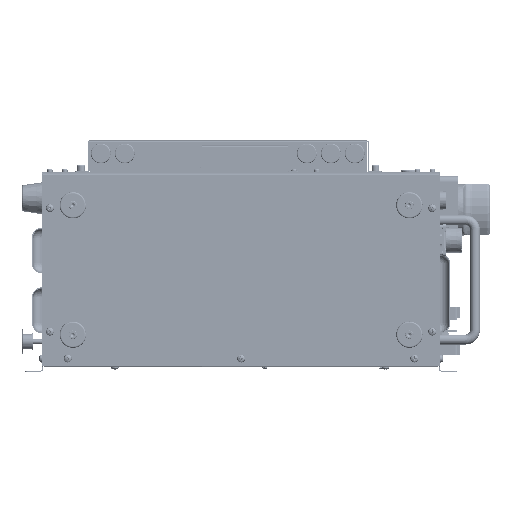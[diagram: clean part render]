
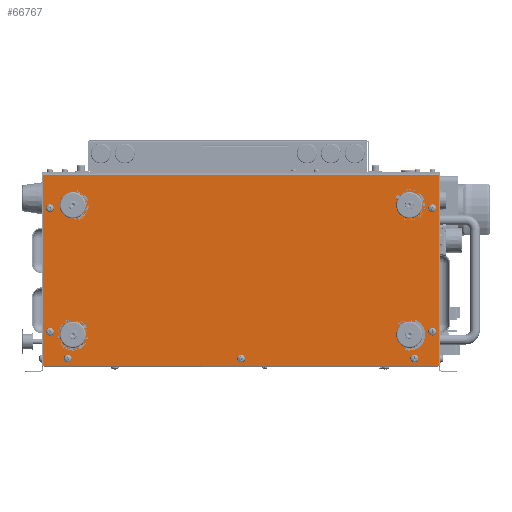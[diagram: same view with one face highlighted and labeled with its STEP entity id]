
A CAD part, front view. The second image highlights one B-rep face of the part: STEP entity #66767.
In plain terms, the highlighted planar face has unit normal (0, -1, 0).
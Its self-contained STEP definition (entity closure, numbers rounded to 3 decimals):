
#2937=FACE_BOUND('',#9288,.T.);
#2938=FACE_BOUND('',#9289,.T.);
#2939=FACE_BOUND('',#9290,.T.);
#2940=FACE_BOUND('',#9291,.T.);
#2941=FACE_BOUND('',#9292,.T.);
#2942=FACE_BOUND('',#9293,.T.);
#2943=FACE_BOUND('',#9294,.T.);
#2944=FACE_BOUND('',#9295,.T.);
#2945=FACE_BOUND('',#9296,.T.);
#2946=FACE_BOUND('',#9297,.T.);
#2947=FACE_BOUND('',#9298,.T.);
#3574=PLANE('',#70790);
#5489=FACE_OUTER_BOUND('',#9287,.T.);
#9287=EDGE_LOOP('',(#44889,#44890,#44891,#44892));
#9288=EDGE_LOOP('',(#44893));
#9289=EDGE_LOOP('',(#44894));
#9290=EDGE_LOOP('',(#44895));
#9291=EDGE_LOOP('',(#44896));
#9292=EDGE_LOOP('',(#44897));
#9293=EDGE_LOOP('',(#44898));
#9294=EDGE_LOOP('',(#44899));
#9295=EDGE_LOOP('',(#44900));
#9296=EDGE_LOOP('',(#44901));
#9297=EDGE_LOOP('',(#44902));
#9298=EDGE_LOOP('',(#44903));
#14166=LINE('',#97356,#19285);
#14168=LINE('',#97361,#19287);
#14169=LINE('',#97366,#19288);
#14178=LINE('',#97431,#19297);
#19285=VECTOR('',#78572,10.);
#19287=VECTOR('',#78578,10.);
#19288=VECTOR('',#78583,10.);
#19297=VECTOR('',#78666,10.);
#23713=CIRCLE('',#70791,2.067);
#23714=CIRCLE('',#70792,2.067);
#23715=CIRCLE('',#70793,2.067);
#23716=CIRCLE('',#70794,2.067);
#23717=CIRCLE('',#70795,2.5);
#23718=CIRCLE('',#70796,2.5);
#23719=CIRCLE('',#70797,2.5);
#23720=CIRCLE('',#70798,2.5);
#23721=CIRCLE('',#70799,2.5);
#23722=CIRCLE('',#70800,2.5);
#23723=CIRCLE('',#70801,2.5);
#27382=VERTEX_POINT('',#97353);
#27383=VERTEX_POINT('',#97355);
#27384=VERTEX_POINT('',#97359);
#27386=VERTEX_POINT('',#97365);
#27406=VERTEX_POINT('',#97432);
#27407=VERTEX_POINT('',#97434);
#27408=VERTEX_POINT('',#97436);
#27409=VERTEX_POINT('',#97438);
#27410=VERTEX_POINT('',#97440);
#27411=VERTEX_POINT('',#97442);
#27412=VERTEX_POINT('',#97444);
#27413=VERTEX_POINT('',#97446);
#27414=VERTEX_POINT('',#97448);
#27415=VERTEX_POINT('',#97450);
#27416=VERTEX_POINT('',#97452);
#34083=EDGE_CURVE('',#27383,#27382,#14166,.T.);
#34086=EDGE_CURVE('',#27384,#27382,#14168,.T.);
#34088=EDGE_CURVE('',#27383,#27386,#14169,.T.);
#34114=EDGE_CURVE('',#27384,#27386,#14178,.T.);
#34115=EDGE_CURVE('',#27406,#27406,#23713,.T.);
#34116=EDGE_CURVE('',#27407,#27407,#23714,.T.);
#34117=EDGE_CURVE('',#27408,#27408,#23715,.T.);
#34118=EDGE_CURVE('',#27409,#27409,#23716,.T.);
#34119=EDGE_CURVE('',#27410,#27410,#23717,.T.);
#34120=EDGE_CURVE('',#27411,#27411,#23718,.T.);
#34121=EDGE_CURVE('',#27412,#27412,#23719,.T.);
#34122=EDGE_CURVE('',#27413,#27413,#23720,.T.);
#34123=EDGE_CURVE('',#27414,#27414,#23721,.T.);
#34124=EDGE_CURVE('',#27415,#27415,#23722,.T.);
#34125=EDGE_CURVE('',#27416,#27416,#23723,.T.);
#44889=ORIENTED_EDGE('',*,*,#34088,.F.);
#44890=ORIENTED_EDGE('',*,*,#34083,.T.);
#44891=ORIENTED_EDGE('',*,*,#34086,.F.);
#44892=ORIENTED_EDGE('',*,*,#34114,.T.);
#44893=ORIENTED_EDGE('',*,*,#34115,.T.);
#44894=ORIENTED_EDGE('',*,*,#34116,.T.);
#44895=ORIENTED_EDGE('',*,*,#34117,.T.);
#44896=ORIENTED_EDGE('',*,*,#34118,.T.);
#44897=ORIENTED_EDGE('',*,*,#34119,.T.);
#44898=ORIENTED_EDGE('',*,*,#34120,.T.);
#44899=ORIENTED_EDGE('',*,*,#34121,.T.);
#44900=ORIENTED_EDGE('',*,*,#34122,.T.);
#44901=ORIENTED_EDGE('',*,*,#34123,.T.);
#44902=ORIENTED_EDGE('',*,*,#34124,.T.);
#44903=ORIENTED_EDGE('',*,*,#34125,.T.);
#66767=ADVANCED_FACE('',(#5489,#2937,#2938,#2939,#2940,#2941,#2942,#2943,
#2944,#2945,#2946,#2947),#3574,.T.);
#70790=AXIS2_PLACEMENT_3D('',#97430,#78664,#78665);
#70791=AXIS2_PLACEMENT_3D('',#97433,#78667,#78668);
#70792=AXIS2_PLACEMENT_3D('',#97435,#78669,#78670);
#70793=AXIS2_PLACEMENT_3D('',#97437,#78671,#78672);
#70794=AXIS2_PLACEMENT_3D('',#97439,#78673,#78674);
#70795=AXIS2_PLACEMENT_3D('',#97441,#78675,#78676);
#70796=AXIS2_PLACEMENT_3D('',#97443,#78677,#78678);
#70797=AXIS2_PLACEMENT_3D('',#97445,#78679,#78680);
#70798=AXIS2_PLACEMENT_3D('',#97447,#78681,#78682);
#70799=AXIS2_PLACEMENT_3D('',#97449,#78683,#78684);
#70800=AXIS2_PLACEMENT_3D('',#97451,#78685,#78686);
#70801=AXIS2_PLACEMENT_3D('',#97453,#78687,#78688);
#78572=DIRECTION('',(0.,0.,1.));
#78578=DIRECTION('',(1.,0.,0.));
#78583=DIRECTION('',(-1.,0.,0.));
#78664=DIRECTION('center_axis',(0.,-1.,0.));
#78665=DIRECTION('ref_axis',(1.,0.,0.));
#78666=DIRECTION('',(0.,0.,-1.));
#78667=DIRECTION('center_axis',(0.,1.,0.));
#78668=DIRECTION('ref_axis',(-1.,0.,0.));
#78669=DIRECTION('center_axis',(0.,1.,0.));
#78670=DIRECTION('ref_axis',(-1.,0.,0.));
#78671=DIRECTION('center_axis',(0.,1.,0.));
#78672=DIRECTION('ref_axis',(-1.,0.,0.));
#78673=DIRECTION('center_axis',(0.,1.,0.));
#78674=DIRECTION('ref_axis',(-1.,0.,0.));
#78675=DIRECTION('center_axis',(0.,1.,0.));
#78676=DIRECTION('ref_axis',(1.,0.,0.));
#78677=DIRECTION('center_axis',(0.,1.,0.));
#78678=DIRECTION('ref_axis',(1.,0.,0.));
#78679=DIRECTION('center_axis',(0.,1.,0.));
#78680=DIRECTION('ref_axis',(1.,0.,0.));
#78681=DIRECTION('center_axis',(0.,1.,0.));
#78682=DIRECTION('ref_axis',(1.,0.,0.));
#78683=DIRECTION('center_axis',(0.,1.,0.));
#78684=DIRECTION('ref_axis',(1.,0.,0.));
#78685=DIRECTION('center_axis',(0.,1.,0.));
#78686=DIRECTION('ref_axis',(1.,0.,0.));
#78687=DIRECTION('center_axis',(0.,1.,0.));
#78688=DIRECTION('ref_axis',(1.,0.,0.));
#97353=CARTESIAN_POINT('',(199.,-76.75,-2.5));
#97355=CARTESIAN_POINT('',(199.,-76.75,-194.));
#97356=CARTESIAN_POINT('',(199.,-76.75,-195.));
#97359=CARTESIAN_POINT('',(-199.,-76.75,-2.5));
#97361=CARTESIAN_POINT('',(-159.,-76.75,-2.5));
#97365=CARTESIAN_POINT('',(-199.,-76.75,-194.));
#97366=CARTESIAN_POINT('',(99.5,-76.75,-194.));
#97430=CARTESIAN_POINT('Origin',(0.,-76.75,-98.));
#97431=CARTESIAN_POINT('',(-199.,-76.75,-1.));
#97432=CARTESIAN_POINT('',(-166.933,-76.75,-163.));
#97433=CARTESIAN_POINT('Origin',(-169.,-76.75,-163.));
#97434=CARTESIAN_POINT('',(171.067,-76.75,-33.));
#97435=CARTESIAN_POINT('Origin',(169.,-76.75,-33.));
#97436=CARTESIAN_POINT('',(171.067,-76.75,-163.));
#97437=CARTESIAN_POINT('Origin',(169.,-76.75,-163.));
#97438=CARTESIAN_POINT('',(-166.933,-76.75,-33.));
#97439=CARTESIAN_POINT('Origin',(-169.,-76.75,-33.));
#97440=CARTESIAN_POINT('',(-194.5,-76.75,-36.));
#97441=CARTESIAN_POINT('Origin',(-192.,-76.75,-36.));
#97442=CARTESIAN_POINT('',(189.5,-76.75,-160.));
#97443=CARTESIAN_POINT('Origin',(192.,-76.75,-160.));
#97444=CARTESIAN_POINT('',(189.5,-76.75,-36.));
#97445=CARTESIAN_POINT('Origin',(192.,-76.75,-36.));
#97446=CARTESIAN_POINT('',(-194.5,-76.75,-160.));
#97447=CARTESIAN_POINT('Origin',(-192.,-76.75,-160.));
#97448=CARTESIAN_POINT('',(171.5,-76.75,-187.));
#97449=CARTESIAN_POINT('Origin',(174.,-76.75,-187.));
#97450=CARTESIAN_POINT('',(-2.5,-76.75,-187.));
#97451=CARTESIAN_POINT('Origin',(0.,-76.75,
-187.));
#97452=CARTESIAN_POINT('',(-176.5,-76.75,-187.));
#97453=CARTESIAN_POINT('Origin',(-174.,-76.75,-187.));
